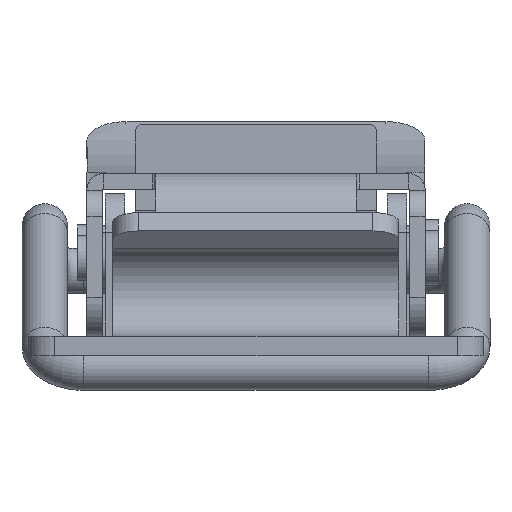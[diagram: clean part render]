
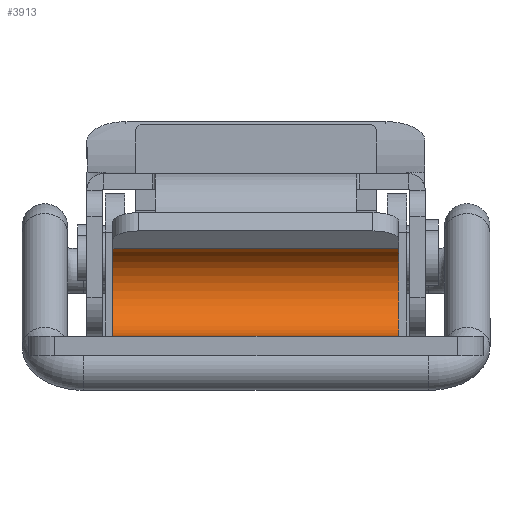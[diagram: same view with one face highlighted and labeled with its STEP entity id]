
A CAD part, left-side view. The second image highlights one B-rep face of the part: STEP entity #3913.
In plain terms, the highlighted cylindrical face has radius 3.474 mm (diameter 6.948 mm), a partial arc.
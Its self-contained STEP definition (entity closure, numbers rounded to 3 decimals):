
#241=LINE('',#5848,#593);
#267=LINE('',#5924,#619);
#593=VECTOR('',#4614,22.);
#619=VECTOR('',#4690,22.);
#1018=FACE_OUTER_BOUND('',#1264,.T.);
#1264=EDGE_LOOP('',(#2781,#2782,#2783,#2784));
#1554=CIRCLE('',#4171,3.474);
#1559=CIRCLE('',#4180,3.474);
#1741=VERTEX_POINT('',#5845);
#1742=VERTEX_POINT('',#5847);
#1762=VERTEX_POINT('',#5908);
#1767=VERTEX_POINT('',#5922);
#2116=EDGE_CURVE('',#1741,#1742,#241,.T.);
#2148=EDGE_CURVE('',#1762,#1741,#1554,.T.);
#2155=EDGE_CURVE('',#1762,#1767,#267,.T.);
#2159=EDGE_CURVE('',#1742,#1767,#1559,.T.);
#2781=ORIENTED_EDGE('',*,*,#2159,.F.);
#2782=ORIENTED_EDGE('',*,*,#2116,.F.);
#2783=ORIENTED_EDGE('',*,*,#2148,.F.);
#2784=ORIENTED_EDGE('',*,*,#2155,.T.);
#3812=CYLINDRICAL_SURFACE('',#4184,3.474);
#3913=ADVANCED_FACE('',(#1018),#3812,.F.);
#4171=AXIS2_PLACEMENT_3D('',#5910,#4675,#4676);
#4180=AXIS2_PLACEMENT_3D('',#5932,#4699,#4700);
#4184=AXIS2_PLACEMENT_3D('',#5939,#4709,#4710);
#4614=DIRECTION('',(0.,0.,-1.));
#4675=DIRECTION('center_axis',(0.,0.,
-1.));
#4676=DIRECTION('ref_axis',(0.,1.,0.));
#4690=DIRECTION('',(0.,0.,-1.));
#4699=DIRECTION('center_axis',(0.,0.,1.));
#4700=DIRECTION('ref_axis',(0.,1.,0.));
#4709=DIRECTION('center_axis',(0.,0.,1.));
#4710=DIRECTION('ref_axis',(0.,1.,0.));
#5845=CARTESIAN_POINT('',(19.026,1.5,11.));
#5847=CARTESIAN_POINT('',(19.026,1.5,-11.));
#5848=CARTESIAN_POINT('',(19.026,1.5,0.));
#5908=CARTESIAN_POINT('',(20.214,8.239,11.));
#5910=CARTESIAN_POINT('Origin',(19.026,4.974,11.));
#5922=CARTESIAN_POINT('',(20.214,8.239,-11.));
#5924=CARTESIAN_POINT('',(20.214,8.239,0.));
#5932=CARTESIAN_POINT('Origin',(19.026,4.974,-11.));
#5939=CARTESIAN_POINT('Origin',(19.026,4.974,0.));
